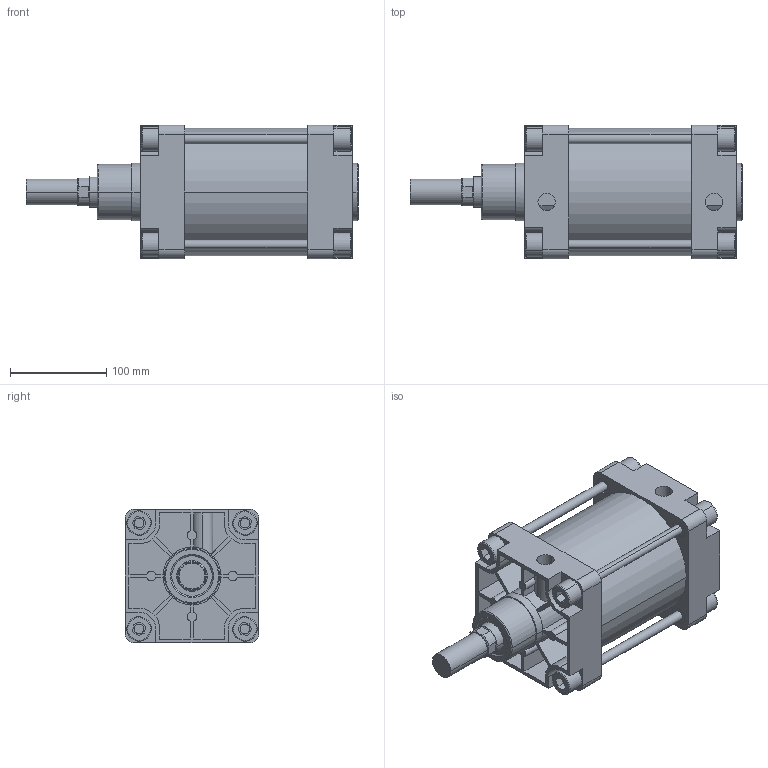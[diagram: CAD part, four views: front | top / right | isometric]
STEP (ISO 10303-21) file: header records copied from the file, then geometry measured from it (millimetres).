
FILE_DESCRIPTION(('CATIA V5 STEP Exchange'),'2;1');
FILE_NAME('D:\stp file for catalog\PNC\125\PNC 125-32-60.stp','2015-10-14T08:24:00+00:00',('none'),('none'),'Version 5-6 Release 2012','CATIA V5 STEP AP203','none');
FILE_SCHEMA(('CONFIG_CONTROL_DESIGN'));
Length unit declared in the file: millimetre
Products named in the file (1): PNC 125-32-60-00
Assembly tree (2 placements, depth 2):
  PNC 125-32-60-00
    #58
    #14773
Bounding box: 345 x 139 x 139 mm (x, y, z)
Volume: 2407658.5 mm3; surface area: 435274 mm2
Topology: 7 solids, 11 shells, 557 faces, 1420 edges, 938 vertices
Faces by surface type: plane 337, cylinder 174, torus 24, extrusion 16, cone 6
Entity records: 15682 total; most frequent: CARTESIAN_POINT 3254, ORIENTED_EDGE 2840, DIRECTION 1937, EDGE_CURVE 1420, VERTEX_POINT 938, VECTOR 903, LINE 887, AXIS2_PLACEMENT_3D 735
